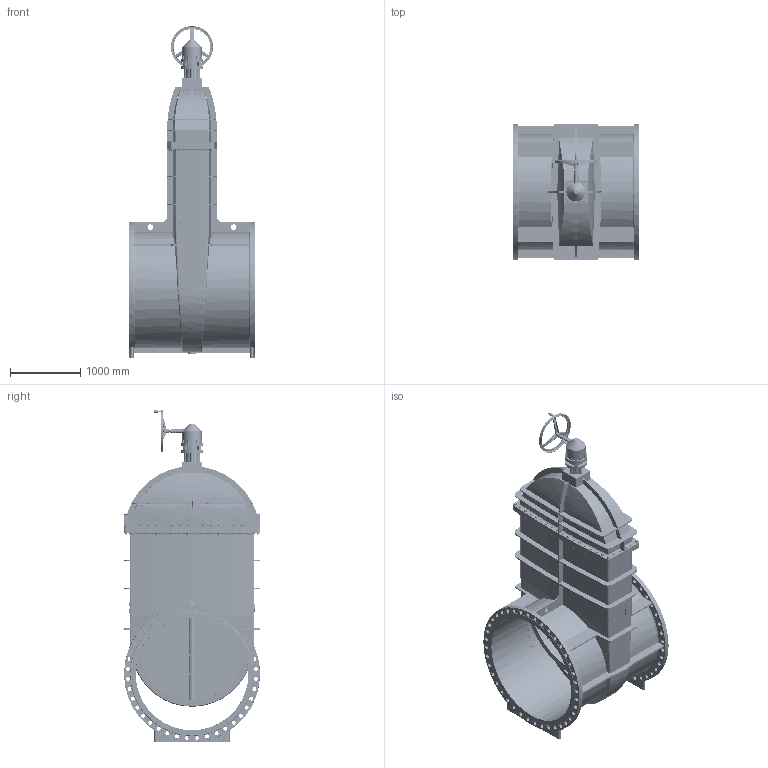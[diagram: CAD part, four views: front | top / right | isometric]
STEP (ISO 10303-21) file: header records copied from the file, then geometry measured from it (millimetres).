
FILE_DESCRIPTION(('STEP AP242'), '1');
FILE_NAME('青溻桄赅', '', ('UNSPECIFIED'), ('UNSPECIFIED'), 'C3D Converter', 'C3D Toolkit', '');
FILE_SCHEMA(('AP242_MANAGED_MODEL_BASED_3D_ENGINEERING_MIM_LF { 1 0 10303 442 1 1 4 }'));
Length unit declared in the file: millimetre
Assembly tree (291 placements, depth 2):
  (unnamed)
    (unnamed)
    (unnamed)
    (unnamed)
    (unnamed)  x2
    (unnamed)
    (unnamed)
    (unnamed)
    (unnamed)
    (unnamed)
    (unnamed)  x44
    (unnamed)  x88
    (unnamed)  x88
    (unnamed)  x44
    (unnamed)  x4
    (unnamed)  x8
    (unnamed)  x4
    (unnamed)
Bounding box: 1800 x 1941 x 4713 mm (x, y, z)
Volume: 407966943.8 mm3; surface area: 64976813.7 mm2
Topology: 296 solids, 297 shells, 4465 faces, 10976 edges, 7193 vertices
Faces by surface type: plane 2497, cylinder 1020, cone 584, extrusion 183, torus 102, bspline 79
Full cylindrical faces by diameter (mm): 5 x4, 6 x23, 8 x24, 10 x4, 12 x8, 13 x8, 14 x4, 16 x12, 17.294 x44, 18 x4, 20 x49, 22 x220, 24 x4, 30 x44, 34 x88, 40 x1, 57 x80, 60 x3, 63 x9, 80 x2, 106.333 x5, 108.391 x1, 126 x1, 226.056 x2, 272.126 x1, 318.196 x3, 520 x1, 530 x1, 590 x1, 600 x1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
Entity records: 92966 total; most frequent: CARTESIAN_POINT 36030, DIRECTION 9826, ORIENTED_EDGE 9003, EDGE_CURVE 4945, AXIS2_PLACEMENT_3D 3840, VERTEX_POINT 3807, EDGE_LOOP 2611, CIRCLE 2155
